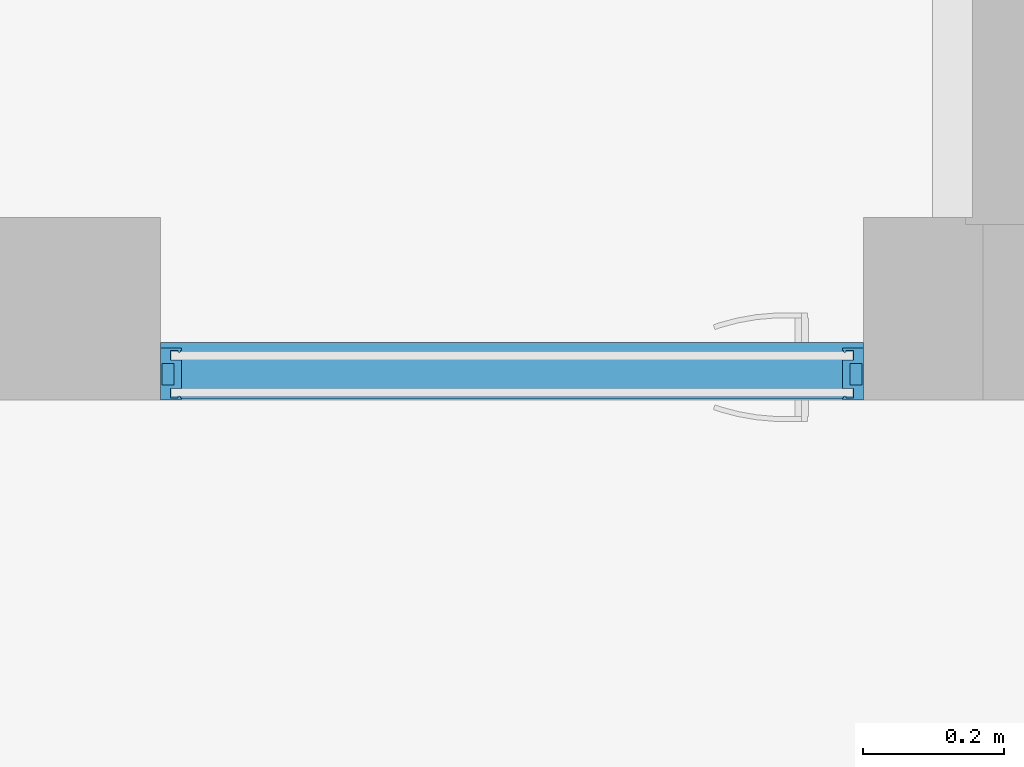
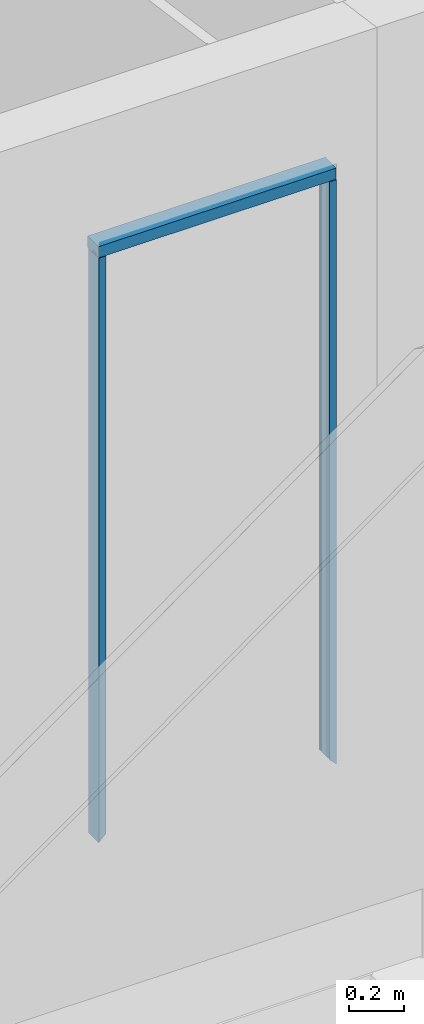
# One storey, part 72 of 246: 3 members, 1 element without a shape of its own.
"""IFC2X3 building model written with IfcOpenShell, lengths in millimetres."""

from ifc_helpers import new_model, entity, si_unit, converted_unit, derived_unit, money_unit, direction, frame, origin_with_axes, place, context, subcontext, project, spatial, faceted_brep, material, material_list, type_object, element, aggregate, save


model = new_model("IFC2X3")

# Units and contexts
model_context = context("Model", 3, precision=0.01, world=origin_with_axes(), true_north=direction((0.0, 1.0)))
body_context = subcontext(model_context, "Body", "Model", "MODEL_VIEW")
ifc_project = project(units=[si_unit("LENGTHUNIT", "METRE", prefix="MILLI"), si_unit("AREAUNIT", "SQUARE_METRE"), si_unit("VOLUMEUNIT", "CUBIC_METRE"), converted_unit("PLANEANGLEUNIT", "DEGREE", entity("IfcPlaneAngleMeasure", 0.0174532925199), si_unit("PLANEANGLEUNIT", "RADIAN"), dimensions=[0, 0, 0, 0, 0, 0, 0]), si_unit("SOLIDANGLEUNIT", "STERADIAN"), money_unit("EUR"), converted_unit("TIMEUNIT", "Year", entity("IfcTimeMeasure", 31556926.0), si_unit("TIMEUNIT", "SECOND"), dimensions=[0, 0, 1, 0, 0, 0, 0]), si_unit("MASSUNIT", "GRAM", prefix="KILO"), si_unit("THERMODYNAMICTEMPERATUREUNIT", "DEGREE_CELSIUS"), si_unit("LUMINOUSINTENSITYUNIT", "LUMEN"), si_unit("ENERGYUNIT", "JOULE", prefix="MEGA"), derived_unit("THERMALCONDUCTANCEUNIT", [(si_unit("POWERUNIT", "WATT"), 1), (si_unit("LENGTHUNIT", "METRE"), -1), (si_unit("THERMODYNAMICTEMPERATUREUNIT", "KELVIN"), -1)]), derived_unit("SPECIFICHEATCAPACITYUNIT", [(si_unit("ENERGYUNIT", "JOULE"), 1), (si_unit("MASSUNIT", "GRAM", prefix="KILO"), -1), (si_unit("THERMODYNAMICTEMPERATUREUNIT", "KELVIN"), -1)]), derived_unit("MASSDENSITYUNIT", [(si_unit("MASSUNIT", "GRAM", prefix="KILO"), 1), (si_unit("VOLUMEUNIT", "CUBIC_METRE"), -1)])], contexts=[model_context])

# Site, building, storey
site_placement = place(None, origin_with_axes())
site = spatial("IfcSite", under=ifc_project, at=site_placement, Name="L.Koidula tn 11b", CompositionType="ELEMENT")
building_placement = place(site_placement, origin_with_axes())
building = spatial("IfcBuilding", under=site, at=building_placement, Name="Rakvere Riigigümnaasium", CompositionType="ELEMENT")
storey_placement = place(building_placement, origin_with_axes())
storey = spatial("IfcBuildingStorey", under=building, at=storey_placement, Name="1.korrus 0,00", CompositionType="ELEMENT", Elevation=0.0)

# Curtain wall, members
curtain_wall_type = type_object("IfcCurtainWallType", Name="Curtain Wall Type", PredefinedType="NOTDEFINED")
curtain_wall_placement = place(storey_placement, frame((36265.0251025, 61372.4546496, -0.000126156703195), z_axis=(0.0, 0.0, 1.0), x_axis=(1.0, 0.0, 0.0)))
curtain_wall = element("IfcCurtainWall", 1, at=curtain_wall_placement, inside=storey, type_object=curtain_wall_type, Name="SKLF-03")
ifc_material_1 = material(Name="Klaasvill")
ifc_material_2 = material(Name="Teras RAL7012")
ifc_material_list = material_list([ifc_material_1, ifc_material_2])
member_type_1 = type_object("IfcMemberType", Name="Siseklaasfassaad-Servaprofiil-Doubleline30 30 x 42", PredefinedType="MULLION")
member_1_placement = place(curtain_wall_placement, frame((500.0, 0.0, 2400.00010875), z_axis=(0.0, 0.0, 1.0), x_axis=(-1.0, 0.0, 0.0)))
member_1 = element("IfcMember", 2, at=member_1_placement, type_object=member_type_1, material=ifc_material_list, Name="Frame-Siseklaasf-040", ObjectType="MULLION", context=body_context, shape_type="Brep", body=[
    faceted_brep([(13.8499999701, 15.000000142, 13.8499999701), (13.8499999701, 15.000000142, 2600.0), (7.49999990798, 15.000000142, 2600.0), (7.49999990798, 15.000000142, 7.49999990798), (13.8499999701, 29.0161444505, 13.8499999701), (13.8499999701, 29.0161444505, 2600.0), (7.49999990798, 29.0161444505, 2600.0), (7.49999990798, 29.0161444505, 7.49999990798)], [[[0, 1, 2, 3]], [[4, 5, 1, 0]], [[2, 1, 5, 6]], [[3, 2, 6, 7]], [[3, 7, 4, 0]], [[7, 6, 5, 4]]]),
    faceted_brep([(25.004489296, 27.0307503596, 25.004489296), (25.004489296, 27.0307503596, 2600.0), (24.987414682, 29.0161444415, 2600.0), (24.987414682, 29.0161444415, 24.987414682), (25.742237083, 26.2930025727, 25.742237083), (25.742237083, 26.2930025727, 2600.0), (26.7500193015, 26.0229681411, 2600.0), (27.75780152, 26.2930025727, 2600.0), (28.4955493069, 27.0307503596, 2600.0), (28.7655837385, 28.0385325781, 2600.0), (28.5126239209, 29.0161444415, 2600.0), (28.5126239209, 29.0161444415, 28.5126239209), (28.7655837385, 28.0385325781, 28.7655837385), (28.4955493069, 27.0307503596, 28.4955493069), (27.75780152, 26.2930025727, 27.75780152), (26.7500193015, 26.0229681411, 26.7500193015)], [[[0, 1, 2, 3]], [[4, 5, 1, 0]], [[2, 1, 5, 6, 7, 8, 9, 10]], [[3, 2, 10, 11]], [[3, 11, 12, 13, 14, 15, 4, 0]], [[15, 6, 5, 4]], [[14, 7, 6, 15]], [[13, 8, 7, 14]], [[12, 9, 8, 13]], [[11, 10, 9, 12]]]),
    faceted_brep([(7.49999990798, -39.0161445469, 7.49999990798), (7.49999990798, -39.0161445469, 2600.0), (7.49999990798, -24.9999997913, 2600.0), (7.49999990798, -24.9999997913, 7.49999990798), (13.8499999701, -39.0161445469, 13.8499999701), (13.8499999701, -39.0161445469, 2600.0), (13.8499999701, -24.9999997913, 2600.0), (13.8499999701, -24.9999997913, 13.8499999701)], [[[0, 1, 2, 3]], [[4, 5, 1, 0]], [[2, 1, 5, 6]], [[3, 2, 6, 7]], [[3, 7, 4, 0]], [[7, 6, 5, 4]]]),
    faceted_brep([(24.987414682, -39.0161444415, 24.987414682), (24.987414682, -39.0161444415, 2600.0), (25.004489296, -37.0307503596, 2600.0), (25.004489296, -37.0307503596, 25.004489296), (28.5126239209, -39.0161444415, 28.5126239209), (28.5126239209, -39.0161444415, 2600.0), (28.7655837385, -38.0385325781, 2600.0), (28.4955493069, -37.0307503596, 2600.0), (27.75780152, -36.2930025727, 2600.0), (26.7500193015, -36.0229681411, 2600.0), (25.742237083, -36.2930025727, 2600.0), (25.742237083, -36.2930025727, 25.742237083), (26.7500193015, -36.0229681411, 26.7500193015), (27.75780152, -36.2930025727, 27.75780152), (28.4955493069, -37.0307503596, 28.4955493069), (28.7655837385, -38.0385325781, 28.7655837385)], [[[0, 1, 2, 3]], [[4, 5, 1, 0]], [[2, 1, 5, 6, 7, 8, 9, 10]], [[3, 2, 10, 11]], [[3, 11, 12, 13, 14, 15, 4, 0]], [[15, 6, 5, 4]], [[14, 7, 6, 15]], [[13, 8, 7, 14]], [[12, 9, 8, 13]], [[11, 10, 9, 12]]]),
    faceted_brep([(29.5999996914, -22.0000000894, 29.5999996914), (29.5999996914, -22.0000000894, 2600.0), (0.0, -22.0000000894, 2600.0), (0.0, -22.0000000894, 0.0), (29.5999996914, 12.0000000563, 29.5999996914), (29.5999996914, 12.0000000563, 2600.0), (0.0, 12.0000000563, 2600.0), (1.9999999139, 10.0000001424, 2600.0), (18.7999996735, 10.0000001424, 2600.0), (18.7999996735, -20.0000001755, 2600.0), (1.9999999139, -20.0000001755, 2600.0), (0.0, 12.0000000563, 0.0), (1.9999999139, 10.0000001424, 1.9999999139), (1.9999999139, -20.0000001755, 1.9999999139), (18.7999996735, -20.0000001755, 18.7999996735), (18.7999996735, 10.0000001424, 18.7999996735)], [[[0, 1, 2, 3]], [[4, 5, 1, 0]], [[2, 1, 5, 6], [7, 8, 9, 10]], [[3, 2, 6, 11]], [[3, 11, 4, 0], [12, 13, 14, 15]], [[11, 6, 5, 4]], [[15, 8, 7, 12]], [[14, 9, 8, 15]], [[13, 10, 9, 14]], [[12, 7, 10, 13]]]),
    faceted_brep([(29.5999996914, 12.0000000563, 29.5999996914), (29.5999996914, 12.0000000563, 2600.0), (0.0, 12.0, 2600.0), (0.0, 12.0, 0.0), (30.0000193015, 12.0, 30.0000193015), (30.0000193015, 12.0, 2600.0), (30.0000193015, 15.0, 2600.0), (13.8499999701, 15.000000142, 2600.0), (7.49999999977, 15.0, 2600.0), (7.49999999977, 29.0161444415, 2600.0), (13.8499999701, 29.0161444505, 2600.0), (24.987414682, 29.0161444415, 2600.0), (28.5126239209, 29.0161444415, 2600.0), (30.0000193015, 29.0161444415, 2600.0), (30.0000193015, 32.0, 2600.0), (0.0, 32.0, 2600.0), (0.0, 32.0, 0.0), (30.0000193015, 32.0, 30.0000193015), (30.0000193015, 29.0161444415, 30.0000193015), (28.5126239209, 29.0161444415, 28.5126239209), (24.987414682, 29.0161444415, 24.987414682), (13.8499999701, 29.0161444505, 13.8499999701), (7.49999999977, 29.0161444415, 7.49999999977), (7.49999999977, 15.0, 7.49999999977), (13.8499999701, 15.000000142, 13.8499999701), (30.0000193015, 15.0, 30.0000193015)], [[[0, 1, 2, 3]], [[4, 5, 1, 0]], [[2, 1, 5, 6, 7, 8, 9, 10, 11, 12, 13, 14, 15]], [[3, 2, 15, 16]], [[3, 16, 17, 18, 19, 20, 21, 22, 23, 24, 25, 4, 0]], [[25, 6, 5, 4]], [[24, 7, 6, 25]], [[23, 8, 7, 24]], [[22, 9, 8, 23]], [[21, 10, 9, 22]], [[20, 11, 10, 21]], [[19, 12, 11, 20]], [[18, 13, 12, 19]], [[17, 14, 13, 18]], [[16, 15, 14, 17]]]),
    faceted_brep([(0.0, -42.0, 0.0), (0.0, -42.0, 2600.0), (0.0, -22.0, 2600.0), (0.0, -22.0, 0.0), (30.0000193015, -42.0, 30.0000193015), (30.0000193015, -42.0, 2600.0), (30.0000193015, -39.0161444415, 2600.0), (28.5126239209, -39.0161444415, 2600.0), (24.987414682, -39.0161444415, 2600.0), (13.8499999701, -39.0161445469, 2600.0), (7.49999999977, -39.0161444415, 2600.0), (7.49999999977, -25.0, 2600.0), (13.8499999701, -24.9999997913, 2600.0), (30.0000193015, -25.0, 2600.0), (30.0000193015, -22.0, 2600.0), (29.5999996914, -22.0000000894, 2600.0), (29.5999996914, -22.0000000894, 29.5999996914), (30.0000193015, -22.0, 30.0000193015), (30.0000193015, -25.0, 30.0000193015), (13.8499999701, -24.9999997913, 13.8499999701), (7.49999999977, -25.0, 7.49999999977), (7.49999999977, -39.0161444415, 7.49999999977), (13.8499999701, -39.0161445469, 13.8499999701), (24.987414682, -39.0161444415, 24.987414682), (28.5126239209, -39.0161444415, 28.5126239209), (30.0000193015, -39.0161444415, 30.0000193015)], [[[0, 1, 2, 3]], [[4, 5, 1, 0]], [[2, 1, 5, 6, 7, 8, 9, 10, 11, 12, 13, 14, 15]], [[3, 2, 15, 16]], [[3, 16, 17, 18, 19, 20, 21, 22, 23, 24, 25, 4, 0]], [[25, 6, 5, 4]], [[24, 7, 6, 25]], [[23, 8, 7, 24]], [[22, 9, 8, 23]], [[21, 10, 9, 22]], [[20, 11, 10, 21]], [[19, 12, 11, 20]], [[18, 13, 12, 19]], [[17, 14, 13, 18]], [[16, 15, 14, 17]]]),
])
member_2_placement = place(curtain_wall_placement, frame((-500.0, 0.0, 2400.00010875), z_axis=(0.0, 0.0, 1.0), x_axis=(-1.0, 0.0, 0.0)))
member_2 = element("IfcMember", 3, at=member_2_placement, type_object=member_type_1, material=ifc_material_list, Name="Frame-Siseklaasf-039", ObjectType="MULLION", context=body_context, shape_type="Brep", body=[
    faceted_brep([(-13.8499999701, 15.000000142, 13.8499999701), (-7.49999990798, 15.000000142, 7.49999990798), (-7.49999990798, 15.000000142, 2600.0), (-13.8499999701, 15.000000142, 2600.0), (-13.8499999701, 29.0161444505, 13.8499999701), (-7.49999990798, 29.0161444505, 7.49999990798), (-7.49999990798, 29.0161444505, 2600.0), (-13.8499999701, 29.0161444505, 2600.0)], [[[0, 1, 2, 3]], [[1, 0, 4, 5]], [[1, 5, 6, 2]], [[2, 6, 7, 3]], [[4, 0, 3, 7]], [[5, 4, 7, 6]]]),
    faceted_brep([(-25.004489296, 27.0307503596, 25.004489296), (-24.987414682, 29.0161444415, 24.987414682), (-24.987414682, 29.0161444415, 2600.0), (-25.004489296, 27.0307503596, 2600.0), (-25.742237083, 26.2930025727, 25.742237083), (-26.7500193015, 26.0229681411, 26.7500193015), (-27.75780152, 26.2930025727, 27.75780152), (-28.4955493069, 27.0307503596, 28.4955493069), (-28.7655837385, 28.0385325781, 28.7655837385), (-28.5126239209, 29.0161444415, 28.5126239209), (-28.5126239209, 29.0161444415, 2600.0), (-28.7655837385, 28.0385325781, 2600.0), (-28.4955493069, 27.0307503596, 2600.0), (-27.75780152, 26.2930025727, 2600.0), (-26.7500193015, 26.0229681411, 2600.0), (-25.742237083, 26.2930025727, 2600.0)], [[[0, 1, 2, 3]], [[1, 0, 4, 5, 6, 7, 8, 9]], [[1, 9, 10, 2]], [[2, 10, 11, 12, 13, 14, 15, 3]], [[4, 0, 3, 15]], [[5, 4, 15, 14]], [[6, 5, 14, 13]], [[7, 6, 13, 12]], [[8, 7, 12, 11]], [[9, 8, 11, 10]]]),
    faceted_brep([(-7.49999990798, -39.0161445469, 7.49999990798), (-7.49999990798, -24.9999997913, 7.49999990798), (-7.49999990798, -24.9999997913, 2600.0), (-7.49999990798, -39.0161445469, 2600.0), (-13.8499999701, -39.0161445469, 13.8499999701), (-13.8499999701, -24.9999997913, 13.8499999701), (-13.8499999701, -24.9999997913, 2600.0), (-13.8499999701, -39.0161445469, 2600.0)], [[[0, 1, 2, 3]], [[1, 0, 4, 5]], [[1, 5, 6, 2]], [[2, 6, 7, 3]], [[4, 0, 3, 7]], [[5, 4, 7, 6]]]),
    faceted_brep([(-24.987414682, -39.0161444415, 24.987414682), (-25.004489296, -37.0307503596, 25.004489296), (-25.004489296, -37.0307503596, 2600.0), (-24.987414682, -39.0161444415, 2600.0), (-28.5126239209, -39.0161444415, 28.5126239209), (-28.7655837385, -38.0385325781, 28.7655837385), (-28.4955493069, -37.0307503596, 28.4955493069), (-27.75780152, -36.2930025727, 27.75780152), (-26.7500193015, -36.0229681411, 26.7500193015), (-25.742237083, -36.2930025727, 25.742237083), (-25.742237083, -36.2930025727, 2600.0), (-26.7500193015, -36.0229681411, 2600.0), (-27.75780152, -36.2930025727, 2600.0), (-28.4955493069, -37.0307503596, 2600.0), (-28.7655837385, -38.0385325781, 2600.0), (-28.5126239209, -39.0161444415, 2600.0)], [[[0, 1, 2, 3]], [[1, 0, 4, 5, 6, 7, 8, 9]], [[1, 9, 10, 2]], [[2, 10, 11, 12, 13, 14, 15, 3]], [[4, 0, 3, 15]], [[5, 4, 15, 14]], [[6, 5, 14, 13]], [[7, 6, 13, 12]], [[8, 7, 12, 11]], [[9, 8, 11, 10]]]),
    faceted_brep([(-29.5999996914, -22.0000000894, 29.5999996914), (0.0, -22.0000000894, 0.0), (0.0, -22.0000000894, 2600.0), (-29.5999996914, -22.0000000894, 2600.0), (-29.5999996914, 12.0000000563, 29.5999996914), (0.0, 12.0000000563, 0.0), (-1.9999999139, 10.0000001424, 1.9999999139), (-18.7999996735, 10.0000001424, 18.7999996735), (-18.7999996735, -20.0000001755, 18.7999996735), (-1.9999999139, -20.0000001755, 1.9999999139), (0.0, 12.0000000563, 2600.0), (-29.5999996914, 12.0000000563, 2600.0), (-1.9999999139, 10.0000001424, 2600.0), (-1.9999999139, -20.0000001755, 2600.0), (-18.7999996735, -20.0000001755, 2600.0), (-18.7999996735, 10.0000001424, 2600.0)], [[[0, 1, 2, 3]], [[1, 0, 4, 5], [6, 7, 8, 9]], [[1, 5, 10, 2]], [[2, 10, 11, 3], [12, 13, 14, 15]], [[4, 0, 3, 11]], [[5, 4, 11, 10]], [[7, 6, 12, 15]], [[8, 7, 15, 14]], [[9, 8, 14, 13]], [[6, 9, 13, 12]]]),
    faceted_brep([(-29.5999996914, 12.0000000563, 29.5999996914), (0.0, 12.0, 0.0), (0.0, 12.0, 2600.0), (-29.5999996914, 12.0000000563, 2600.0), (-30.0000193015, 12.0, 30.0000193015), (-30.0000193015, 15.0, 30.0000193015), (-13.8499999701, 15.000000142, 13.8499999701), (-7.49999999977, 15.0, 7.49999999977), (-7.49999999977, 29.0161444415, 7.49999999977), (-13.8499999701, 29.0161444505, 13.8499999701), (-24.987414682, 29.0161444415, 24.987414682), (-28.5126239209, 29.0161444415, 28.5126239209), (-30.0000193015, 29.0161444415, 30.0000193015), (-30.0000193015, 32.0, 30.0000193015), (0.0, 32.0, 0.0), (0.0, 32.0, 2600.0), (-30.0000193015, 32.0, 2600.0), (-30.0000193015, 29.0161444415, 2600.0), (-28.5126239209, 29.0161444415, 2600.0), (-24.987414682, 29.0161444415, 2600.0), (-13.8499999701, 29.0161444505, 2600.0), (-7.49999999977, 29.0161444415, 2600.0), (-7.49999999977, 15.0, 2600.0), (-13.8499999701, 15.000000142, 2600.0), (-30.0000193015, 15.0, 2600.0), (-30.0000193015, 12.0, 2600.0)], [[[0, 1, 2, 3]], [[1, 0, 4, 5, 6, 7, 8, 9, 10, 11, 12, 13, 14]], [[1, 14, 15, 2]], [[2, 15, 16, 17, 18, 19, 20, 21, 22, 23, 24, 25, 3]], [[4, 0, 3, 25]], [[5, 4, 25, 24]], [[6, 5, 24, 23]], [[7, 6, 23, 22]], [[8, 7, 22, 21]], [[9, 8, 21, 20]], [[10, 9, 20, 19]], [[11, 10, 19, 18]], [[12, 11, 18, 17]], [[13, 12, 17, 16]], [[14, 13, 16, 15]]]),
    faceted_brep([(0.0, -42.0, 0.0), (0.0, -22.0, 0.0), (0.0, -22.0, 2600.0), (0.0, -42.0, 2600.0), (-30.0000193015, -42.0, 30.0000193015), (-30.0000193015, -39.0161444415, 30.0000193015), (-28.5126239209, -39.0161444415, 28.5126239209), (-24.987414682, -39.0161444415, 24.987414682), (-13.8499999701, -39.0161445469, 13.8499999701), (-7.49999999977, -39.0161444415, 7.49999999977), (-7.49999999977, -25.0, 7.49999999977), (-13.8499999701, -24.9999997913, 13.8499999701), (-30.0000193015, -25.0, 30.0000193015), (-30.0000193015, -22.0, 30.0000193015), (-29.5999996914, -22.0000000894, 29.5999996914), (-29.5999996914, -22.0000000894, 2600.0), (-30.0000193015, -22.0, 2600.0), (-30.0000193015, -25.0, 2600.0), (-13.8499999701, -24.9999997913, 2600.0), (-7.49999999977, -25.0, 2600.0), (-7.49999999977, -39.0161444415, 2600.0), (-13.8499999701, -39.0161445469, 2600.0), (-24.987414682, -39.0161444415, 2600.0), (-28.5126239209, -39.0161444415, 2600.0), (-30.0000193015, -39.0161444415, 2600.0), (-30.0000193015, -42.0, 2600.0)], [[[0, 1, 2, 3]], [[1, 0, 4, 5, 6, 7, 8, 9, 10, 11, 12, 13, 14]], [[1, 14, 15, 2]], [[2, 15, 16, 17, 18, 19, 20, 21, 22, 23, 24, 25, 3]], [[4, 0, 3, 25]], [[5, 4, 25, 24]], [[6, 5, 24, 23]], [[7, 6, 23, 22]], [[8, 7, 22, 21]], [[9, 8, 21, 20]], [[10, 9, 20, 19]], [[11, 10, 19, 18]], [[12, 11, 18, 17]], [[13, 12, 17, 16]], [[14, 13, 16, 15]]]),
])
ifc_material_3 = material(Name="Alumiiniumprofiil")
member_type_2 = type_object("IfcMemberType", Name="Boundary Frame 50 x 80", PredefinedType="MULLION")
member_3_placement = place(curtain_wall_placement, frame((-500.0, 0.0, 5050.00010875), z_axis=(1.0, 0.0, 0.0), x_axis=(0.0, 0.0, 1.0)))
member_3 = element("IfcMember", 4, at=member_3_placement, type_object=member_type_2, material=ifc_material_3, Name="SKLF-23-raam", ObjectType="MULLION", context=body_context, shape_type="Brep", body=[
    faceted_brep([(-37.0, -10.0, 1000.0), (-50.0, -10.0, 1000.0), (-50.0, -50.0, 1000.0), (0.0, -50.0, 1000.0), (0.0, 30.0, 1000.0), (-50.0, 30.0, 1000.0), (-50.0, 10.0, 1000.0), (-37.0, 10.0, 1000.0), (-37.0, -10.0, 0.0), (-50.0, -10.0, 0.0), (-50.0, -50.0, 0.0), (0.0, -50.0, 0.0), (0.0, 30.0, 0.0), (-50.0, 30.0, 0.0), (-50.0, 10.0, 0.0), (-37.0, 10.0, 0.0)], [[[0, 1, 2, 3, 4, 5, 6, 7]], [[0, 8, 9, 1]], [[9, 10, 2, 1]], [[10, 11, 3, 2]], [[11, 12, 4, 3]], [[12, 13, 5, 4]], [[6, 5, 13, 14]], [[14, 15, 7, 6]], [[7, 15, 8, 0]], [[8, 15, 14, 13, 12, 11, 10, 9]]]),
])
aggregate(curtain_wall, [member_1, member_2, member_3])

save(model, "model.ifc")
